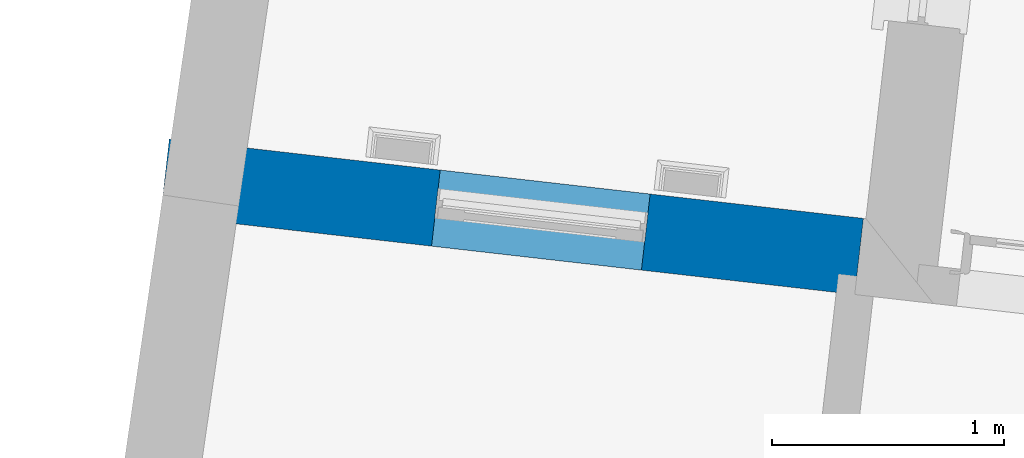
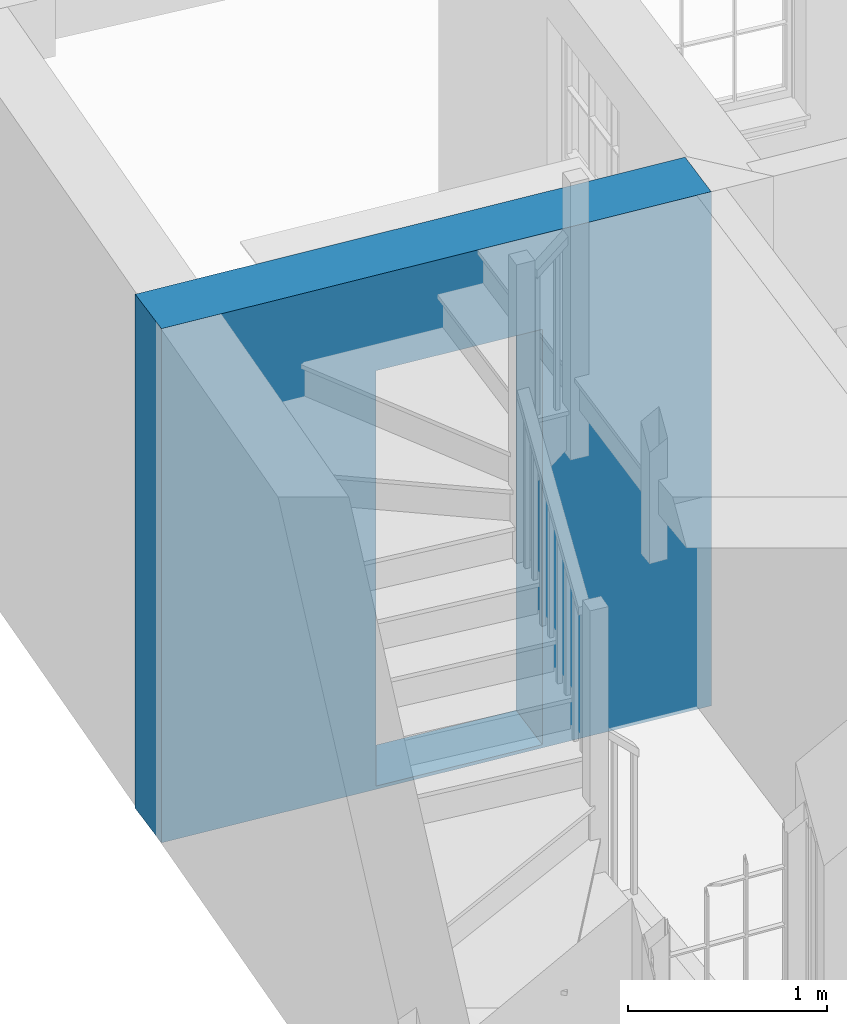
# One storey, part 5 of 8: 1 wall, 1 opening.
"""IFC4 building model written with IfcOpenShell, lengths in metres."""

from ifc_helpers import new_model, si_unit, frame, origin_with_axes, place, context, subcontext, project, spatial, polyline, outline, extrude, material, layer, layer_set, layer_usage, type_object, element, save


model = new_model("IFC4")

# Units and contexts
model_context = context("Model", 3, world=origin_with_axes())
body_context = subcontext(model_context, "Body", "Model", "MODEL_VIEW")
ifc_project = project(units=[si_unit("PLANEANGLEUNIT", "RADIAN"), si_unit("MASSUNIT", "GRAM", prefix="KILO"), si_unit("FORCEUNIT", "NEWTON", prefix="KILO"), si_unit("LENGTHUNIT", "METRE"), si_unit("AREAUNIT", "SQUARE_METRE"), si_unit("VOLUMEUNIT", "CUBIC_METRE")], contexts=[model_context, model_context])

# Sites, building, storey
site_1_placement = place(None, origin_with_axes())
site_1 = spatial("IfcSite", under=ifc_project, at=site_1_placement, Name="Tamar")
site_2_placement = place(site_1_placement, origin_with_axes())
site_2 = spatial("IfcSite", under=site_1, at=site_2_placement, Name="Site plot-31", CompositionType="ELEMENT")
building_placement = place(None, origin_with_axes())
building = spatial("IfcBuilding", under=site_2, at=building_placement, Name="Building plot-31", CompositionType="ELEMENT")
storey_placement = place(None, frame((0.0, 0.0, 25.5), z_axis=(0.0, 0.0, 1.0), x_axis=(1.0, 0.0, 0.0)))
storey = spatial("IfcBuildingStorey", under=building, at=storey_placement, Name="plot-31 0", CompositionType="ELEMENT", Elevation=25.5)

# Wall, opening
ifc_material = material(Name="Masonry")
ifc_layer = layer(ifc_material, 0.33, ventilated=False)
ifc_layer_set = layer_set([ifc_layer], Name="exterior_0.08_0.25")
ifc_layer_usage = layer_usage(ifc_layer_set, "AXIS2", "POSITIVE", -0.25)
wall_type = type_object("IfcWallType", Name="exterior_0.08_0.25", PredefinedType="SOLIDWALL", material=ifc_layer_set)
wall_placement = place(storey_placement, frame((295.708183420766, 261.079675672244, 0.0), z_axis=(0.0, 0.0, 1.0), x_axis=(-0.993538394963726, 0.113496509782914, 0.0)))
wall = element("IfcWall", 1, at=wall_placement, inside=storey, type_object=wall_type, material=ifc_layer_usage, Name="exterior", context=body_context, shape_type="SweptSolid", body=[
    extrude(outline(polyline([(-2.51704865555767e-13, 0.0799999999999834), (8.15862697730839e-13, -0.250000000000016), (3.0092274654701, -0.249999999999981), (3.00922746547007, 0.0800000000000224), (-2.51704865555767e-13, 0.0799999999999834)])), origin_with_axes(), (0.0, 0.0, 1.0), 3.15),
])
opening_placement = place(wall_placement, frame((0.924613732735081, 0.0, 0.0199999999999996)))
element("IfcOpeningElement", 2, at=opening_placement, cuts=wall, Name="My Opening", ObjectType="Opening", context=body_context, shape_type="SweptSolid", body=[
    extrude(outline(polyline([(0.0, -0.270000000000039), (0.90999999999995, -0.270000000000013), (0.909999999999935, 1.09999999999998), (-1.49880108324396e-14, 1.09999999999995), (0.0, -0.270000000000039)])), origin_with_axes(), (0.0, 0.0, 1.0), 2.545),
])

save(model, "model.ifc")
